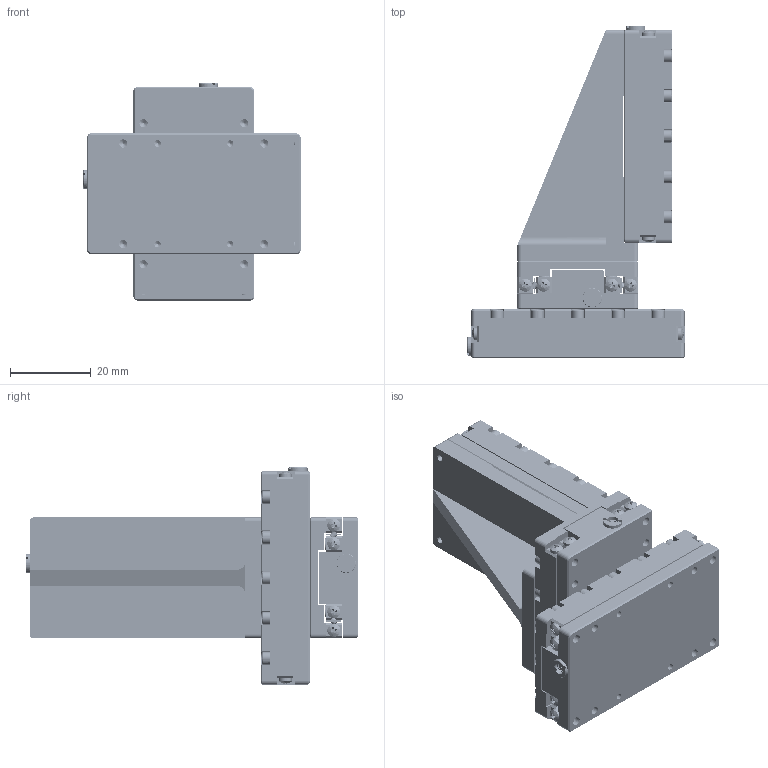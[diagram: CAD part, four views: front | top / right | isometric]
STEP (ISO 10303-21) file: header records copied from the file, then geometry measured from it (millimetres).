
FILE_DESCRIPTION (( 'STEP AP214' ), '1' );
FILE_NAME ('N56.XYZ30K-B1开环三维直线压电马达3D图（25.05.06）.STEP', '2025-08-01T01:25:36', ( '微软用户' ), ( '微软中国' ), 'SwSTEP 2.0', 'SolidWorks 2016', '' );
FILE_SCHEMA (( 'AUTOMOTIVE_DESIGN' ));
Length unit declared in the file: millimetre
Products named in the file (1): N56.XYZ30K-B1开环三维直线压电马达3D图（25.05.06）
Bounding box: 53.9 x 82.4 x 53.9 mm (x, y, z)
Volume: 53393.3 mm3; surface area: 56900.4 mm2
Topology: 196 solids, 196 shells, 4494 faces, 11141 edges, 7110 vertices
Faces by surface type: plane 2255, cylinder 1663, cone 402, bspline 174
Entity records: 186180 total; most frequent: CARTESIAN_POINT 27396, DIRECTION 22829, ORIENTED_EDGE 21682, EDGE_CURVE 10841, AXIS2_PLACEMENT_3D 8371, VERTEX_POINT 7110, LINE 6087, VECTOR 6087
